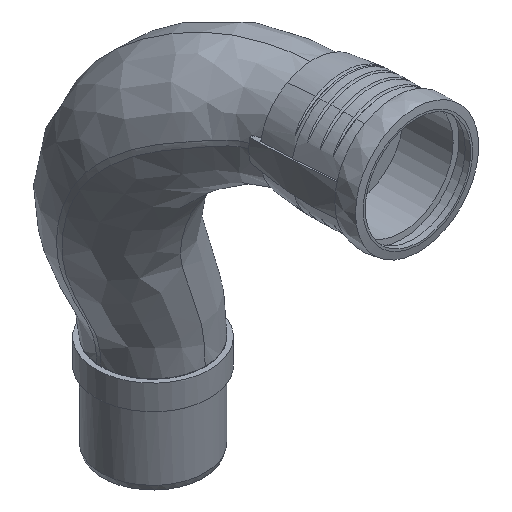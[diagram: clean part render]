
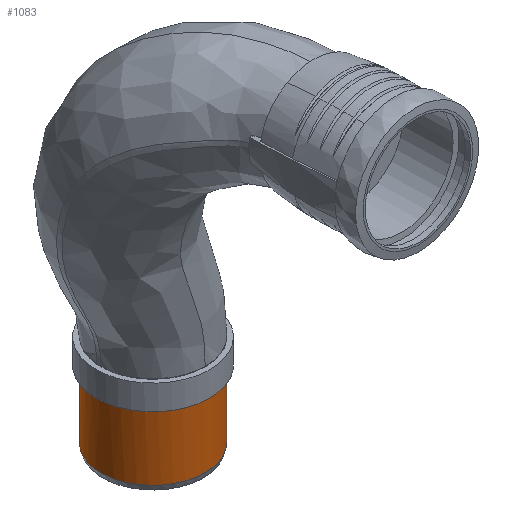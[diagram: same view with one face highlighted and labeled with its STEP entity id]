
A CAD part, isometric view. The second image highlights one B-rep face of the part: STEP entity #1083.
In plain terms, the highlighted cylindrical face has radius 45.1 mm (diameter 90.2 mm), a full revolution.
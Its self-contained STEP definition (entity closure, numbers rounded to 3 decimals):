
#24=CYLINDRICAL_SURFACE('',#1192,45.1);
#65=LINE('',#9770,#85);
#85=VECTOR('',#1386,45.1);
#145=FACE_OUTER_BOUND('',#206,.T.);
#206=EDGE_LOOP('',(#928,#929,#930,#931,#932));
#264=CIRCLE('',#1177,45.1);
#265=CIRCLE('',#1178,45.1);
#266=CIRCLE('',#1180,45.1);
#449=VERTEX_POINT('',#8409);
#450=VERTEX_POINT('',#8410);
#451=VERTEX_POINT('',#8415);
#592=EDGE_CURVE('',#449,#450,#264,.T.);
#593=EDGE_CURVE('',#450,#449,#265,.T.);
#596=EDGE_CURVE('',#451,#451,#266,.T.);
#621=EDGE_CURVE('',#451,#449,#65,.T.);
#928=ORIENTED_EDGE('',*,*,#596,.T.);
#929=ORIENTED_EDGE('',*,*,#621,.T.);
#930=ORIENTED_EDGE('',*,*,#592,.T.);
#931=ORIENTED_EDGE('',*,*,#593,.T.);
#932=ORIENTED_EDGE('',*,*,#621,.F.);
#1083=ADVANCED_FACE('',(#145),#24,.T.);
#1177=AXIS2_PLACEMENT_3D('',#8411,#1349,#1350);
#1178=AXIS2_PLACEMENT_3D('',#8412,#1351,#1352);
#1180=AXIS2_PLACEMENT_3D('',#8417,#1357,#1358);
#1192=AXIS2_PLACEMENT_3D('',#9769,#1384,#1385);
#1349=DIRECTION('center_axis',(0.,0.,1.));
#1350=DIRECTION('ref_axis',(-0.479,0.878,0.));
#1351=DIRECTION('center_axis',(0.,0.,1.));
#1352=DIRECTION('ref_axis',(-0.479,0.878,0.));
#1357=DIRECTION('center_axis',(0.,0.,-1.));
#1358=DIRECTION('ref_axis',(-0.479,0.878,0.));
#1384=DIRECTION('center_axis',(0.,0.,1.));
#1385=DIRECTION('ref_axis',(-0.479,0.878,0.));
#1386=DIRECTION('',(0.,0.,-1.));
#8409=CARTESIAN_POINT('',(21.622,100.33,-308.955));
#8410=CARTESIAN_POINT('',(-5.073,184.723,-308.955));
#8411=CARTESIAN_POINT('Origin',(0.,139.909,-308.955));
#8412=CARTESIAN_POINT('Origin',(0.,139.909,-308.955));
#8415=CARTESIAN_POINT('',(21.622,100.33,-251.455));
#8417=CARTESIAN_POINT('Origin',(0.,139.909,-251.455));
#9769=CARTESIAN_POINT('Origin',(0.,139.909,-271.455));
#9770=CARTESIAN_POINT('',(21.622,100.33,-271.455));
